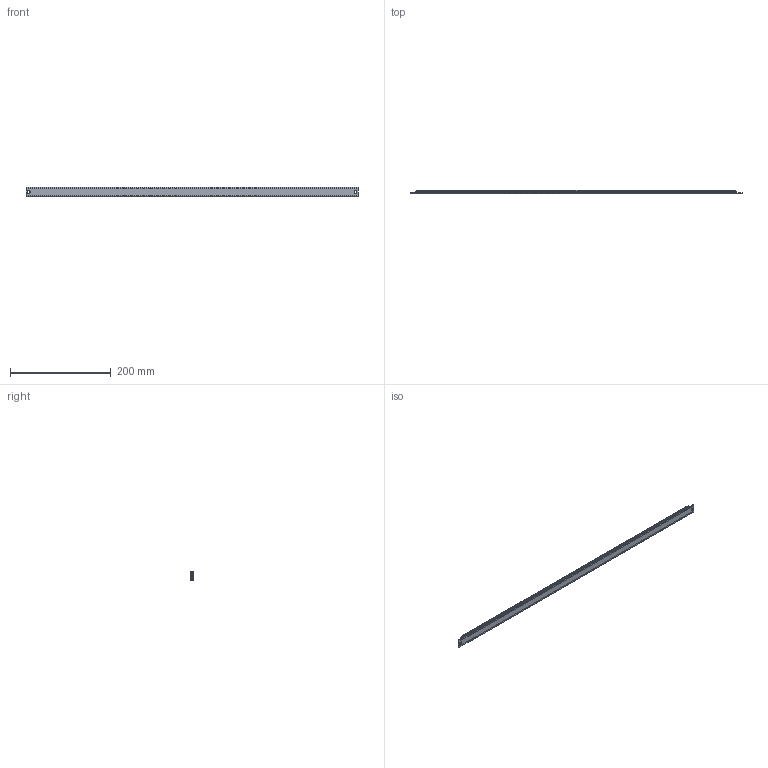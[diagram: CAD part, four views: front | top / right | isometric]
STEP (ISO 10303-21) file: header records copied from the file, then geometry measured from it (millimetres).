
FILE_DESCRIPTION (( 'STEP AP214' ), '1' );
FILE_NAME ('HLMScale.ScaleLength660.STEP', '2023-02-07T05:55:48', ( '' ), ( '' ), 'SwSTEP 2.0', 'SolidWorks 2020', '' );
FILE_SCHEMA (( 'AUTOMOTIVE_DESIGN' ));
Length unit declared in the file: millimetre
Products named in the file (1): HLMScale.ScaleLength660
Bounding box: 660 x 6.08 x 18 mm (x, y, z)
Volume: 65689.3 mm3; surface area: 36358.9 mm2
Topology: 1 solids, 1 shells, 56 faces, 149 edges, 98 vertices
Faces by surface type: plane 31, cylinder 25
Entity records: 1857 total; most frequent: CARTESIAN_POINT 412, ORIENTED_EDGE 298, DIRECTION 285, EDGE_CURVE 149, LINE 103, VECTOR 103, VERTEX_POINT 98, AXIS2_PLACEMENT_3D 91
